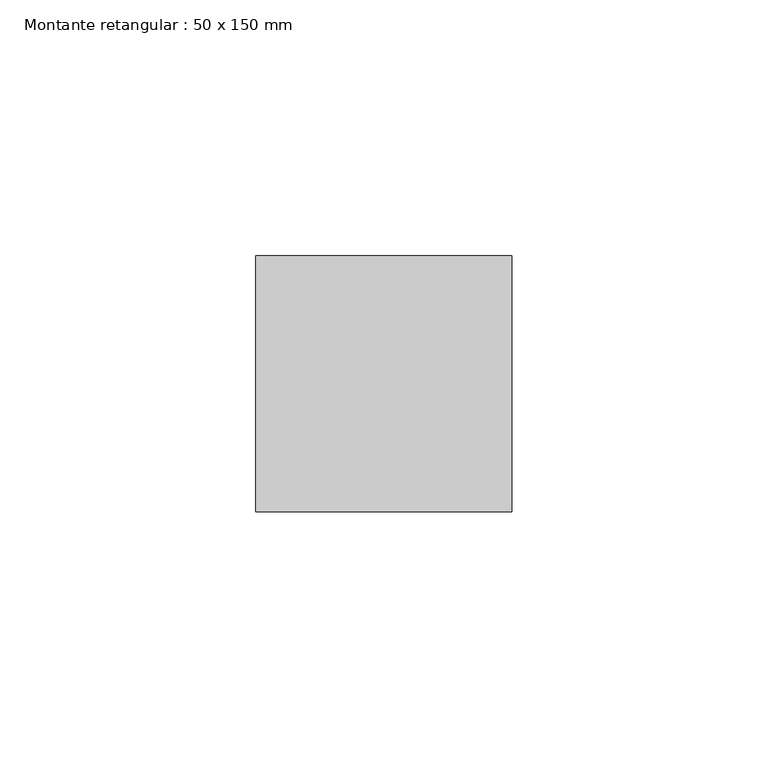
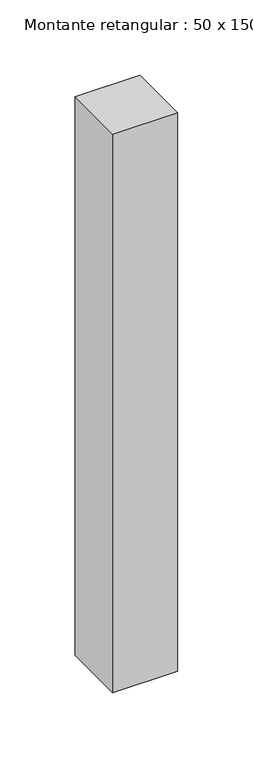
"""IFC4 building model written with IfcOpenShell, lengths in millimetres: member geometry, Montante retangular : 50 x 150 mm."""

from ifc_helpers import new_model, si_unit, frame, origin, place, context, project, spatial, polyline, outline, extrude, source, transform, mapped, element, save


def montante_retangular_50_x_150_mm_6d85095d(model_context):
    return source(origin(), model_context, "Body", "SweptSolid", [
        extrude(outline(polyline([(25.0, 25.0), (25.0, -25.0), (-25.0, -25.0), (-25.0, 25.0), (25.0, 25.0)])), frame((0.0, 0.0, -453.7384909), z_axis=(0.0, 0.0, 1.0), x_axis=(1.0, 0.0, 0.0)), (0.0, 0.0, 1.0), 453.7384909),
    ])


if __name__ == "__main__":
    model = new_model("IFC4")
    model_context = context("Model", 3, world=origin())
    ifc_project = project(units=[si_unit("LENGTHUNIT", "METRE", prefix="MILLI")], contexts=[model_context])
    site = spatial("IfcSite", under=ifc_project)
    building = spatial("IfcBuilding", under=site)
    placement = place(None, origin())
    montante_retangular_50_x_150_mm_shape = montante_retangular_50_x_150_mm_6d85095d(model_context)
    element("IfcMember", 1, ObjectType="Montante retangular : 50 x 150 mm", at=placement, inside=building, context=model_context, shape_type="MappedRepresentation", body=[
        mapped(montante_retangular_50_x_150_mm_shape, transform((0.0, 0.0, 0.0), x_axis=(1.0, 0.0, 0.0), y_axis=(0.0, 1.0, 0.0), z_axis=(0.0, 0.0, 1.0))),
    ])
    save(model, "model.ifc")
